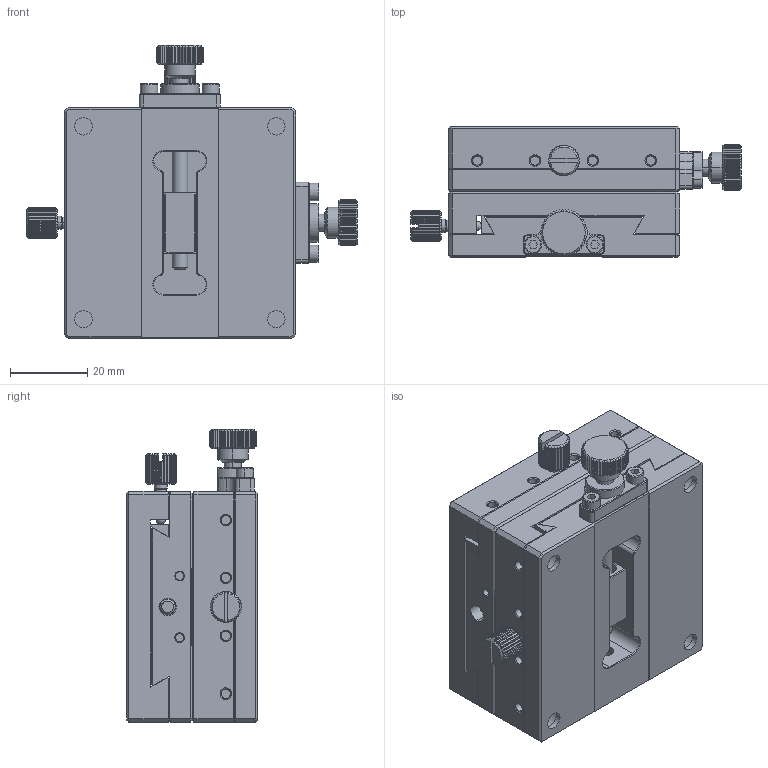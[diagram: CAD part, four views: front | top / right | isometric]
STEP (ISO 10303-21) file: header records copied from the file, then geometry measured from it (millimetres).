
FILE_DESCRIPTION((''),'2;1');
FILE_NAME('ASSY-60-XY-L_ASM','2021-06-28T16:56:08',('windows10'),(''),'CREO PARAMETRIC BY PTC INC, 2018260','CREO PARAMETRIC BY PTC INC, 2018260','');
FILE_SCHEMA(('CONFIG_CONTROL_DESIGN'));
Length unit declared in the file: millimetre
Products named in the file (13): BOTTOM-60-60-17; TOP-60-60-17; COUPLER-4060; SCREW-M2D5-4; HANDLE-12-M4-60; HOLDER-HANDLE; E-RING-3-7; ASSY-HANDLE-12-M4-60_ASM; 2D5-10; BALL-2D381; STOPPER-8-M3-16; ASSY-60-L_ASM; ASSY-60-XY-L_ASM
Assembly tree (15 placements, depth 4):
  ASSY-60-XY-L_ASM
    ASSY-60-L_ASM  x2
      BOTTOM-60-60-17
      TOP-60-60-17
      COUPLER-4060
      SCREW-M2D5-4
      ASSY-HANDLE-12-M4-60_ASM
        HANDLE-12-M4-60
        HOLDER-HANDLE
        E-RING-3-7
      2D5-10
      BALL-2D381
      STOPPER-8-M3-16
Bounding box: 85.74 x 33.8 x 76 mm (x, y, z)
Volume: 113025.3 mm3; surface area: 53129.1 mm2
Topology: 24 solids, 24 shells, 1518 faces, 3894 edges, 2464 vertices
Faces by surface type: plane 766, cylinder 478, cone 238, torus 24, sphere 12
Entity records: 22707 total; most frequent: CARTESIAN_POINT 5006, ORIENTED_EDGE 3682, DIRECTION 3634, EDGE_CURVE 1841, AXIS2_PLACEMENT_3D 1366, VERTEX_POINT 1168, VECTOR 902, LINE 902
